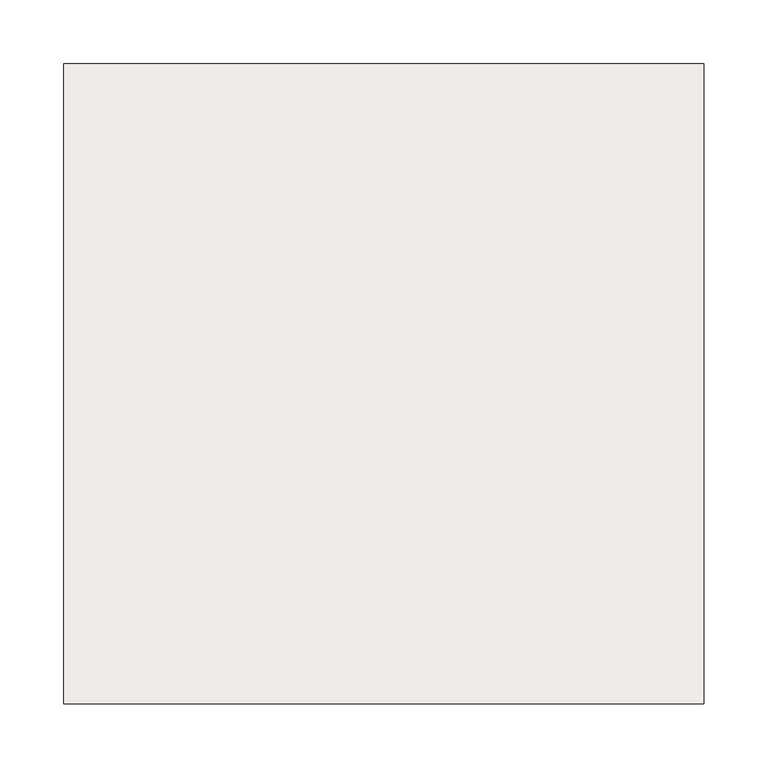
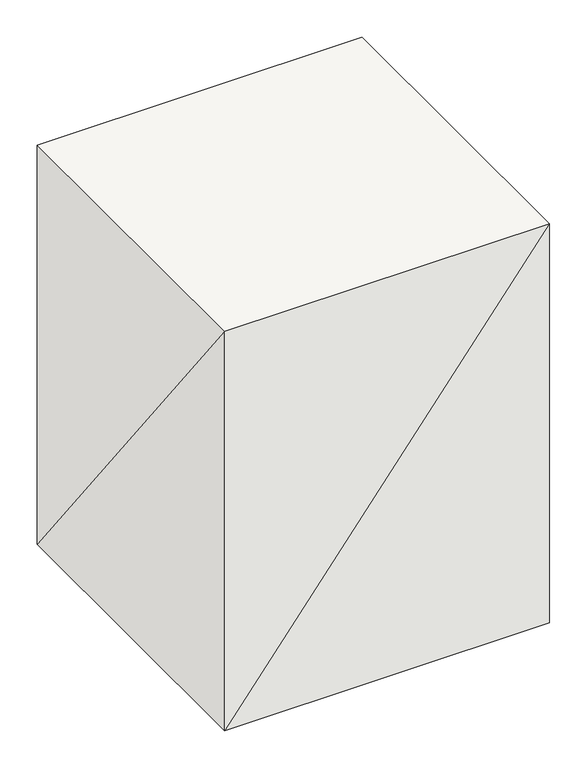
"""IFC4 building model written with IfcOpenShell, lengths in millimetres: slab geometry."""

from ifc_helpers import new_model, si_unit, origin, place, context, project, spatial, faceted_brep, source, transform, mapped, element, save


def slab_2d3f1c7f(model_context):
    return source(origin(), model_context, "Body", "Brep", [
        faceted_brep([(250.0, -250.0, -650.0), (-250.0, -250.0, -650.0), (-250.0, 250.0, -650.0), (250.0, 250.0, -650.0), (250.0, 250.0, 0.0), (-250.0, 250.0, 0.0), (-250.0, -250.0, 0.0), (250.0, -250.0, 0.0)], [[[0, 1, 2, 3]], [[4, 5, 6, 7]], [[4, 3, 5]], [[3, 2, 5]], [[5, 2, 6]], [[2, 1, 6]], [[6, 1, 7]], [[1, 0, 7]], [[7, 0, 4]], [[0, 3, 4]]]),
    ])


if __name__ == "__main__":
    model = new_model("IFC4")
    model_context = context("Model", 3, world=origin())
    ifc_project = project(units=[si_unit("LENGTHUNIT", "METRE", prefix="MILLI")], contexts=[model_context])
    site = spatial("IfcSite", under=ifc_project)
    building = spatial("IfcBuilding", under=site)
    placement = place(None, origin())
    slab_shape = slab_2d3f1c7f(model_context)
    element("IfcSlab", 1, at=placement, inside=building, context=model_context, shape_type="MappedRepresentation", body=[
        mapped(slab_shape, transform((0.0, 0.0, 0.0), x_axis=(1.0, 0.0, 0.0), y_axis=(0.0, 1.0, 0.0), z_axis=(0.0, 0.0, 1.0))),
    ])
    save(model, "model.ifc")
